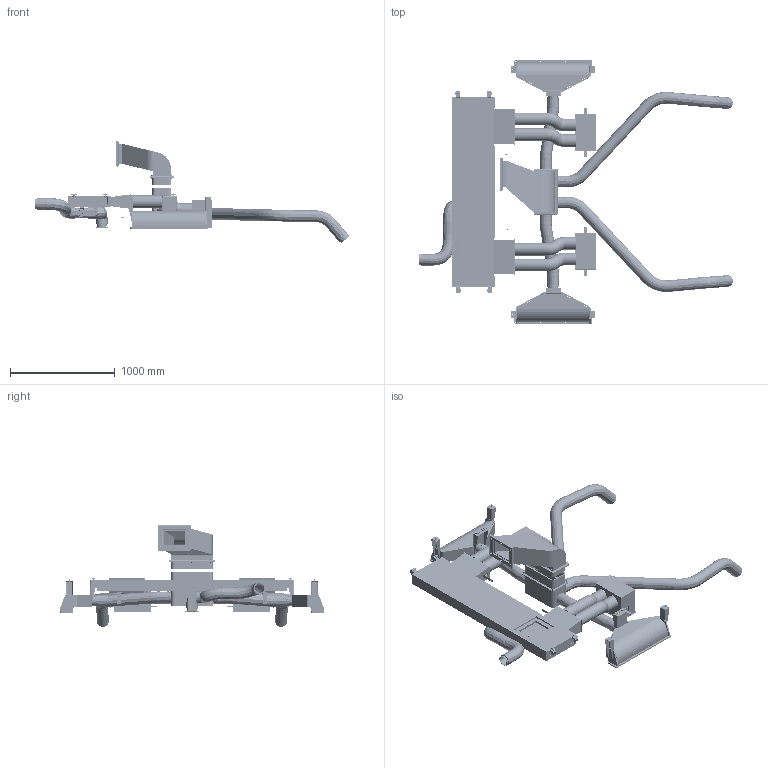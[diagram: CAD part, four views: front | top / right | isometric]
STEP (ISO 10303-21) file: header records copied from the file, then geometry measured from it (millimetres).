
FILE_DESCRIPTION(('CATIA V5 STEP Exchange','CAx-IF Rec.Pracs.--- Model Styling and Organization---1.5--- 2016-08-15','CAx-IF Rec.Pracs.---Supplemental Geometry---1.0---2011-11-01','CAx-IF Rec.Pracs.--- Composite Materials ---1.1---2010-07-15'),'2;1');
FILE_NAME('C:\Users\yasin.ozturk\Desktop\Gaziray 16 Set Şartname Revizyon\TŞ-29.064_Gaziray_Hava Kanalları\GZ10.12.09.00000.stp','2026-04-13T09:12:08+00:00',('none'),('none'),'CATIA Version 5-6 Release 2023','CATIA V5 STEP AP214 v2','none');
FILE_SCHEMA(('AUTOMOTIVE_DESIGN { 1 0 10303 214 1 1 1 1 }'));
Products named in the file (375): GZ10.12.09.00000; GZ10.12.09.00100; Kit-Screws of GZ10.12.09.10000; Kit-screws; SP.01003-020JB; SP.03002-005JB; SP.03009-005JB; SP.11003-009JB; Kit-Screws of GZ10.12.09.20000; Fix; SP.02013-409QB; SP.01003-020JB_1; SP.03002-005JB_1; SP.03009-005JB_1; Fix-2; SP.01003-020JB_2; SP.03002-005JB_2; SP.03009-005JB_2; Kit-Screws of GZ10.12.09.30000; Kit-Screws of GZ10.12.09.60000; Fixing M6; SP.03009-003JB; SP.01002-073JB; SP.03002-003JB; Kit-Screws of GZ10.12.09.90000; Copy (1) of Kit-screws; SP.01003-020JB_3; SP.03002-005JB_3; SP.03009-005JB_3; SP.11003-009JB_1; Kit-22; SP.01003-020JB_4; SP.03002-005JB_4; SP.03009-005JB_4; GZ10.12.09.10000; GZ10.12.09.11000; GZ10.12.09.11001; GZ10.12.09.11002; GZ10.12.09.11003; GZ10.12.09.11003_1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
Assembly tree (445 placements, depth 5):
  GZ10.12.09.00000
    GZ10.12.09.00100
      Kit-Screws of GZ10.12.09.10000
        Kit-screws  x6
          SP.01003-020JB
          SP.03002-005JB
          SP.03009-005JB
          SP.11003-009JB
      Kit-Screws of GZ10.12.09.20000  x2
        Fix
          SP.02013-409QB
          SP.01003-020JB_1
          SP.03002-005JB_1
          SP.03009-005JB_1
        Fix-2
          SP.01003-020JB_2
          SP.03002-005JB_2
          SP.03009-005JB_2
      Kit-Screws of GZ10.12.09.30000
        Fix  x4
          SP.02013-409QB
          SP.01003-020JB_1
          SP.03002-005JB_1
          SP.03009-005JB_1
      Kit-Screws of GZ10.12.09.60000
        Fixing M6  x10
          SP.03009-003JB
          SP.01002-073JB
          SP.03002-003JB
      Kit-Screws of GZ10.12.09.90000
        Copy (1) of Kit-screws  x6
          SP.01003-020JB_3
          SP.03002-005JB_3
          SP.03009-005JB_3
          SP.11003-009JB_1
        Kit-22  x6
          SP.01003-020JB_4
          SP.03002-005JB_4
          SP.03009-005JB_4
    GZ10.12.09.10000
      GZ10.12.09.11000
        GZ10.12.09.11001
        GZ10.12.09.11002
        GZ10.12.09.11003
        GZ10.12.09.11003_1
        GZ10.12.09.11005
        GZ10.12.09.11003_2
        GZ10.12.09.11003_3
        5mm.2
          GZ10.12.09.00006
          GZ10.12.09.00006_1
          GZ10.12.09.00006_2
          GZ10.12.09.00006_3
          GZ10.12.09.00006_4
          GZ10.12.09.00006_5
          GZ10.12.09.00006_6
          GZ10.12.09.00006_7
          GZ10.12.09.00006_8
          GZ10.12.09.00006_9
          GZ10.12.09.00006_10
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Bounding box: 3006.89 x 2520 x 971.95 mm (x, y, z)
Volume: 109289181.7 mm3; surface area: 33272593 mm2
Topology: 590 solids, 654 shells, 18405 faces, 45841 edges, 28600 vertices
Faces by surface type: plane 8452, cylinder 5447, torus 1780, cone 1101, bspline 924, sphere 643, revolution 33, extrusion 25
Entity records: 487887 total; most frequent: CARTESIAN_POINT 180032, ORIENTED_EDGE 66818, DIRECTION 49589, EDGE_CURVE 33454, AXIS2_PLACEMENT_3D 23568, VERTEX_POINT 21248, EDGE_LOOP 15314, VECTOR 14078
